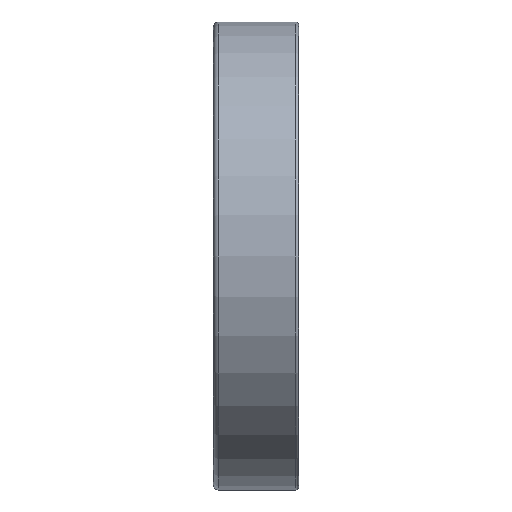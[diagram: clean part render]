
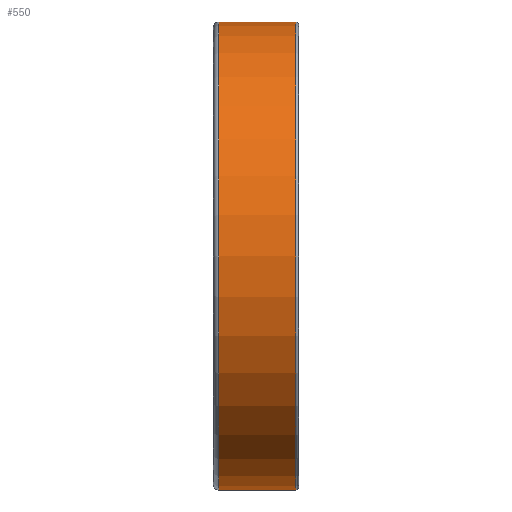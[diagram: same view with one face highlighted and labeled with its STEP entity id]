
A CAD part, front view. The second image highlights one B-rep face of the part: STEP entity #550.
In plain terms, the highlighted cylindrical face has radius 27.5 mm (diameter 55 mm), a full revolution.
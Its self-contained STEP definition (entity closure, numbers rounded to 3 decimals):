
#167=CYLINDRICAL_SURFACE('',#862,27.5);
#267=EDGE_LOOP('',(#379));
#268=EDGE_LOOP('',(#380));
#379=ORIENTED_EDGE('',*,*,#443,.F.);
#380=ORIENTED_EDGE('',*,*,#441,.T.);
#441=EDGE_CURVE('',#789,#789,#461,.T.);
#443=EDGE_CURVE('',#791,#791,#463,.T.);
#461=CIRCLE('',#858,27.5);
#463=CIRCLE('',#861,27.5);
#550=ADVANCED_FACE('',(#691,#692),#167,.T.);
#691=FACE_BOUND('',#267,.T.);
#692=FACE_BOUND('',#268,.T.);
#789=VERTEX_POINT('',#3234);
#791=VERTEX_POINT('',#3239);
#858=AXIS2_PLACEMENT_3D('',#3233,#986,#987);
#861=AXIS2_PLACEMENT_3D('',#3238,#992,#993);
#862=AXIS2_PLACEMENT_3D('',#3240,#994,#995);
#986=DIRECTION('',(1.,0.,0.));
#987=DIRECTION('',(0.,0.,-1.));
#992=DIRECTION('',(1.,0.,0.));
#993=DIRECTION('',(0.,0.,-1.));
#994=DIRECTION('',(1.,0.,0.));
#995=DIRECTION('',(0.,0.,-1.));
#3233=CARTESIAN_POINT('',(-4.4,0.,0.));
#3234=CARTESIAN_POINT('',(-4.4,0.,-27.5));
#3238=CARTESIAN_POINT('',(4.7,0.,0.));
#3239=CARTESIAN_POINT('',(4.7,0.,-27.5));
#3240=CARTESIAN_POINT('',(-4.4,0.,0.));
